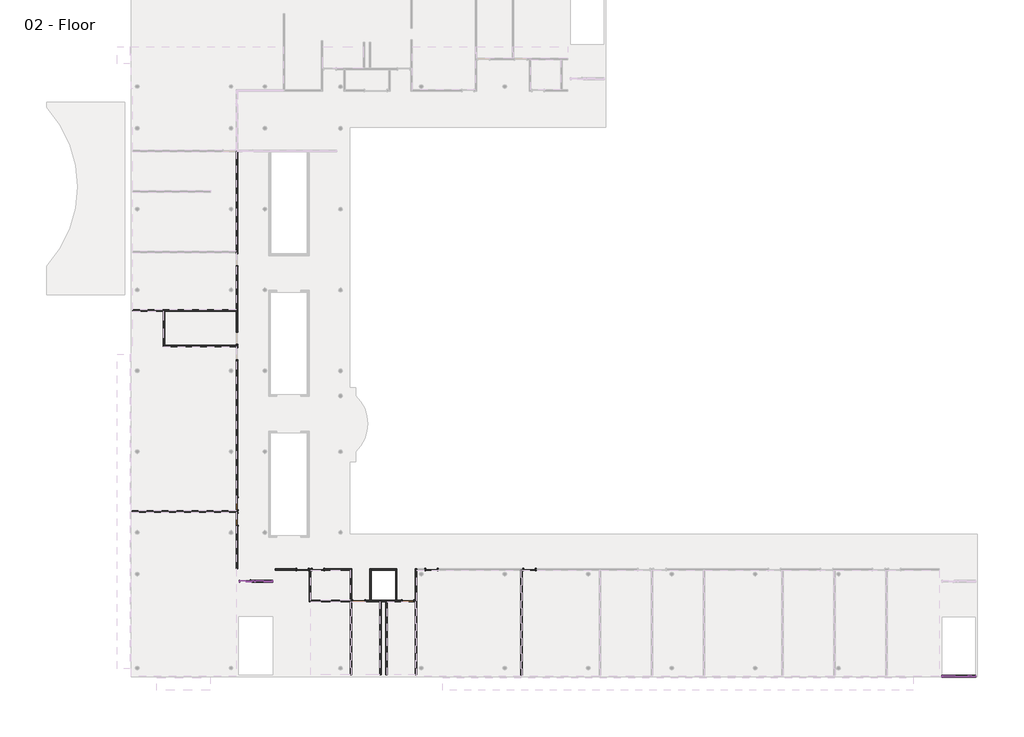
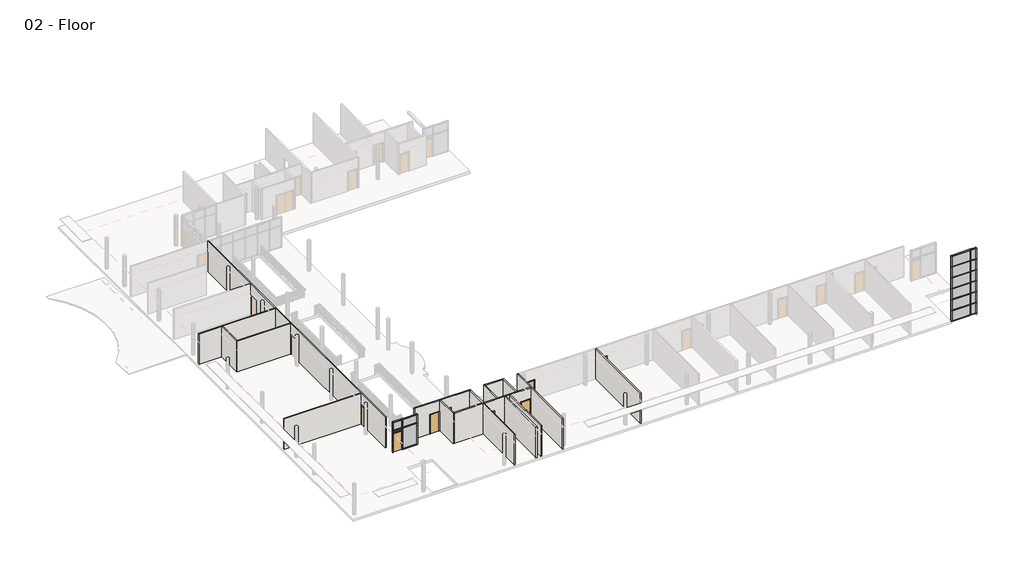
# One storey, part 1 of 5: 50 members, 16 plates, 16 walls, 9 doors.
"""IFC4 building model written with IfcOpenShell, lengths in millimetres."""

from ifc_helpers import new_model, si_unit, frame, origin, place, context, project, spatial, polyline, outline, extrude, faceted_brep, transform, mapped, element, save
from components import curtain_wall_sgl_glass_curtain_wall_sgl_glass_c2d4b377, door_305aa2a5, door_e5f9f3c4, member_2b49869a, member_75074519, member_18e22e2d, member_9193c932, member_4f18b2ac, member_7a85b04f, member_274b5bb4, member_3f1e2ae8, member_6186cc23, member_5d67b9fc, member_c327c56d, member_a50b3cda, member_410c6227, member_73c23c35, member_59c53a79, member_c46932f7, member_40e8ea34, member_f5b3432e, system_panel_glazed_f46199af, system_panel_glazed_a2373be0, system_panel_glazed_4b84483b, system_panel_glazed_9dcaf0c5, system_panel_glazed_652e8fc4, system_panel_glazed_8dc8626f, system_panel_glazed_8d3e4aee, system_panel_glazed_f4fcbcda

model = new_model("IFC4")

# Units and contexts
model_context = context("Model", 3, world=origin())
ifc_project = project(units=[si_unit("LENGTHUNIT", "METRE", prefix="MILLI")], contexts=[model_context])

# Site, building, storey
site = spatial("IfcSite", under=ifc_project)
building = spatial("IfcBuilding", under=site)
storey = spatial("IfcBuildingStorey", under=building, Name="02 - Floor", Elevation=3657.6)

# Doors
placement = place(None, origin())
curtain_wall_sgl_glass_curtain_wall_sgl_glass_shape = curtain_wall_sgl_glass_curtain_wall_sgl_glass_c2d4b377(model_context)
element("IfcDoor", 1, ObjectType="Curtain Wall Sgl Glass : Curtain Wall Sgl Glass", at=placement, inside=storey, context=model_context, shape_type="MappedRepresentation", body=[
    mapped(curtain_wall_sgl_glass_curtain_wall_sgl_glass_shape, transform((9097.2957476, 7356.4, 3657.6), x_axis=(-1.0, 0.0, 0.0), y_axis=(0.0, -1.0, 0.0), z_axis=(0.0, 0.0, 1.0))),
])
door_shape = door_305aa2a5(model_context)
element("IfcDoor", 2, ObjectType="Single-Flush : 36\" x 84\"", at=placement, inside=storey, context=model_context, shape_type="MappedRepresentation", body=[
    mapped(door_shape, transform((21743.3207476, 5832.4, 3657.6), x_axis=(1.0, 0.0, 0.0), y_axis=(0.0, 1.0, 0.0), z_axis=(0.0, 0.0, 1.0))),
])
element("IfcDoor", 3, ObjectType="Single-Flush : 36\" x 84\"", at=placement, inside=storey, context=model_context, shape_type="MappedRepresentation", body=[
    mapped(door_shape, transform((8427.3707476, 13401.6, 3657.6), x_axis=(0.0, -1.0, 0.0), y_axis=(1.0, 0.0, 0.0), z_axis=(0.0, 0.0, 1.0))),
])
element("IfcDoor", 4, ObjectType="Single-Flush : 36\" x 84\"", at=placement, inside=storey, context=model_context, shape_type="MappedRepresentation", body=[
    mapped(door_shape, transform((13513.7207476, 8277.15, 3657.6), x_axis=(1.0, 0.0, 0.0), y_axis=(0.0, 1.0, 0.0), z_axis=(0.0, 0.0, 1.0))),
])
door_2_shape = door_e5f9f3c4(model_context)
element("IfcDoor", 5, ObjectType="Single-Flush : 36\" x 84\"", at=placement, inside=storey, context=model_context, shape_type="MappedRepresentation", body=[
    mapped(door_2_shape, transform((17907.9207476, 5832.4, 3657.6), x_axis=(-1.0, 0.0, 0.0), y_axis=(0.0, -1.0, 0.0), z_axis=(0.0, 0.0, 1.0))),
])
element("IfcDoor", 6, ObjectType="Single-Flush : 36\" x 84\"", at=placement, inside=storey, context=model_context, shape_type="MappedRepresentation", body=[
    mapped(door_2_shape, transform((8427.3707476, 12182.4, 3657.6), x_axis=(0.0, 1.0, 0.0), y_axis=(-1.0, 0.0, 0.0), z_axis=(0.0, 0.0, 1.0))),
])
element("IfcDoor", 7, ObjectType="Single-Flush : 36\" x 84\"", at=placement, inside=storey, context=model_context, shape_type="MappedRepresentation", body=[
    mapped(door_2_shape, transform((14732.9207476, 8277.15, 3657.6), x_axis=(-1.0, 0.0, 0.0), y_axis=(0.0, -1.0, 0.0), z_axis=(0.0, 0.0, 1.0))),
])
element("IfcDoor", 8, ObjectType="Single-Flush : 36\" x 84\"", at=placement, inside=storey, context=model_context, shape_type="MappedRepresentation", body=[
    mapped(door_2_shape, transform((23572.1207476, 8277.15, 3657.6), x_axis=(-1.0, 0.0, 0.0), y_axis=(0.0, -1.0, 0.0), z_axis=(0.0, 0.0, 1.0))),
])
element("IfcDoor", 9, ObjectType="Single-Flush : 36\" x 84\"", at=placement, inside=storey, context=model_context, shape_type="MappedRepresentation", body=[
    mapped(door_2_shape, transform((31204.8207476, 8277.15, 3657.6), x_axis=(-1.0, 0.0, 0.0), y_axis=(0.0, -1.0, 0.0), z_axis=(0.0, 0.0, 1.0))),
])

# Members
member_shape = member_2b49869a(model_context)
element("IfcMember", 10, ObjectType="Rectangular Mullion : 2.5\" x 5\" rectangular", at=placement, inside=storey, context=model_context, shape_type="MappedRepresentation", body=[
    mapped(member_shape, transform((65380.5207476, -47.7, 9753.6), x_axis=(1.0, 0.0, 0.0), y_axis=(0.0, -1.0, 0.0), z_axis=(0.0, 0.0, -1.0))),
])
member_2_shape = member_75074519(model_context)
element("IfcMember", 11, ObjectType="Rectangular Mullion : 2.5\" x 5\" rectangular", at=placement, inside=storey, context=model_context, shape_type="MappedRepresentation", body=[
    mapped(member_2_shape, transform((63348.5207476, -47.7, 10972.8), x_axis=(-1.0, 0.0, 0.0), y_axis=(0.0, -1.0, 0.0), z_axis=(0.0, 0.0, 1.0))),
])
element("IfcMember", 12, ObjectType="Rectangular Mullion : 2.5\" x 5\" rectangular", at=placement, inside=storey, context=model_context, shape_type="MappedRepresentation", body=[
    mapped(member_2_shape, transform((66002.8207476, -47.7, 9753.6), x_axis=(1.0, 0.0, 0.0), y_axis=(0.0, -1.0, 0.0), z_axis=(0.0, 0.0, -1.0))),
])
member_3_shape = member_18e22e2d(model_context)
element("IfcMember", 13, ObjectType="Rectangular Mullion : 2.5\" x 5\" rectangular", at=placement, inside=storey, context=model_context, shape_type="MappedRepresentation", body=[
    mapped(member_3_shape, transform((9586.2457476, 7356.4, 6096.0), x_axis=(-1.0, 0.0, 0.0), y_axis=(0.0, 1.0, 0.0), z_axis=(0.0, 0.0, -1.0))),
])
member_4_shape = member_9193c932(model_context)
element("IfcMember", 14, ObjectType="Rectangular Mullion : 2.5\" x 5\" rectangular", at=placement, inside=storey, context=model_context, shape_type="MappedRepresentation", body=[
    mapped(member_4_shape, transform((11194.3832476, 7356.4, 7061.2), x_axis=(1.0, 0.0, 0.0), y_axis=(0.0, 1.0, 0.0), z_axis=(0.0, 0.0, 1.0))),
])
element("IfcMember", 15, ObjectType="Rectangular Mullion : 2.5\" x 5\" rectangular", at=placement, inside=storey, context=model_context, shape_type="MappedRepresentation", body=[
    mapped(member_4_shape, transform((8576.5957476, 7356.4, 6096.0), x_axis=(-1.0, 0.0, 0.0), y_axis=(0.0, 1.0, 0.0), z_axis=(0.0, 0.0, -1.0))),
])
member_5_shape = member_4f18b2ac(model_context)
element("IfcMember", 16, ObjectType="Rectangular Mullion : 2.5\" x 5\" rectangular", at=placement, inside=storey, context=model_context, shape_type="MappedRepresentation", body=[
    mapped(member_5_shape, transform((63412.0207476, -47.7, 3657.6), x_axis=(0.0, 0.0, -1.0), y_axis=(0.0, -1.0, 0.0), z_axis=(-1.0, 0.0, 0.0))),
])
element("IfcMember", 17, ObjectType="Rectangular Mullion : 2.5\" x 5\" rectangular", at=placement, inside=storey, context=model_context, shape_type="MappedRepresentation", body=[
    mapped(member_5_shape, transform((65348.7707476, -47.7, 10972.8), x_axis=(0.0, 0.0, 1.0), y_axis=(0.0, -1.0, 0.0), z_axis=(1.0, 0.0, 0.0))),
])
member_6_shape = member_7a85b04f(model_context)
element("IfcMember", 18, ObjectType="Rectangular Mullion : 2.5\" x 5\" rectangular", at=placement, inside=storey, context=model_context, shape_type="MappedRepresentation", body=[
    mapped(member_6_shape, transform((65348.7707476, -47.7, 4876.8), x_axis=(0.0, 0.0, 1.0), y_axis=(0.0, -1.0, 0.0), z_axis=(1.0, 0.0, 0.0))),
])
element("IfcMember", 19, ObjectType="Rectangular Mullion : 2.5\" x 5\" rectangular", at=placement, inside=storey, context=model_context, shape_type="MappedRepresentation", body=[
    mapped(member_6_shape, transform((65348.7707476, -47.7, 6096.0), x_axis=(0.0, 0.0, 1.0), y_axis=(0.0, -1.0, 0.0), z_axis=(1.0, 0.0, 0.0))),
])
element("IfcMember", 20, ObjectType="Rectangular Mullion : 2.5\" x 5\" rectangular", at=placement, inside=storey, context=model_context, shape_type="MappedRepresentation", body=[
    mapped(member_6_shape, transform((65348.7707476, -47.7, 7315.2), x_axis=(0.0, 0.0, 1.0), y_axis=(0.0, -1.0, 0.0), z_axis=(1.0, 0.0, 0.0))),
])
element("IfcMember", 21, ObjectType="Rectangular Mullion : 2.5\" x 5\" rectangular", at=placement, inside=storey, context=model_context, shape_type="MappedRepresentation", body=[
    mapped(member_6_shape, transform((65348.7707476, -47.7, 8534.4), x_axis=(0.0, 0.0, 1.0), y_axis=(0.0, -1.0, 0.0), z_axis=(1.0, 0.0, 0.0))),
])
element("IfcMember", 22, ObjectType="Rectangular Mullion : 2.5\" x 5\" rectangular", at=placement, inside=storey, context=model_context, shape_type="MappedRepresentation", body=[
    mapped(member_6_shape, transform((65348.7707476, -47.7, 9753.6), x_axis=(0.0, 0.0, 1.0), y_axis=(0.0, -1.0, 0.0), z_axis=(1.0, 0.0, 0.0))),
])
element("IfcMember", 23, ObjectType="Rectangular Mullion : 2.5\" x 5\" rectangular", at=placement, inside=storey, context=model_context, shape_type="MappedRepresentation", body=[
    mapped(member_shape, transform((65380.5207476, -47.7, 3657.6), x_axis=(1.0, 0.0, 0.0), y_axis=(0.0, -1.0, 0.0), z_axis=(0.0, 0.0, -1.0))),
])
element("IfcMember", 24, ObjectType="Rectangular Mullion : 2.5\" x 5\" rectangular", at=placement, inside=storey, context=model_context, shape_type="MappedRepresentation", body=[
    mapped(member_shape, transform((65380.5207476, -47.7, 4876.8), x_axis=(1.0, 0.0, 0.0), y_axis=(0.0, -1.0, 0.0), z_axis=(0.0, 0.0, -1.0))),
])
element("IfcMember", 25, ObjectType="Rectangular Mullion : 2.5\" x 5\" rectangular", at=placement, inside=storey, context=model_context, shape_type="MappedRepresentation", body=[
    mapped(member_shape, transform((65380.5207476, -47.7, 6096.0), x_axis=(1.0, 0.0, 0.0), y_axis=(0.0, -1.0, 0.0), z_axis=(0.0, 0.0, -1.0))),
])
element("IfcMember", 26, ObjectType="Rectangular Mullion : 2.5\" x 5\" rectangular", at=placement, inside=storey, context=model_context, shape_type="MappedRepresentation", body=[
    mapped(member_shape, transform((65380.5207476, -47.7, 7315.2), x_axis=(1.0, 0.0, 0.0), y_axis=(0.0, -1.0, 0.0), z_axis=(0.0, 0.0, -1.0))),
])
element("IfcMember", 27, ObjectType="Rectangular Mullion : 2.5\" x 5\" rectangular", at=placement, inside=storey, context=model_context, shape_type="MappedRepresentation", body=[
    mapped(member_shape, transform((65380.5207476, -47.7, 8534.4), x_axis=(1.0, 0.0, 0.0), y_axis=(0.0, -1.0, 0.0), z_axis=(0.0, 0.0, -1.0))),
])
member_7_shape = member_274b5bb4(model_context)
element("IfcMember", 28, ObjectType="Rectangular Mullion : 2.5\" x 5\" rectangular", at=placement, inside=storey, context=model_context, shape_type="MappedRepresentation", body=[
    mapped(member_7_shape, transform((65939.3207476, -47.7, 10972.8), x_axis=(0.0, 0.0, 1.0), y_axis=(0.0, -1.0, 0.0), z_axis=(1.0, 0.0, 0.0))),
])
element("IfcMember", 29, ObjectType="Rectangular Mullion : 2.5\" x 5\" rectangular", at=placement, inside=storey, context=model_context, shape_type="MappedRepresentation", body=[
    mapped(member_7_shape, transform((65412.2707476, -47.7, 3657.6), x_axis=(0.0, 0.0, -1.0), y_axis=(0.0, -1.0, 0.0), z_axis=(-1.0, 0.0, 0.0))),
])
member_8_shape = member_3f1e2ae8(model_context)
element("IfcMember", 30, ObjectType="Rectangular Mullion : 2.5\" x 5\" rectangular", at=placement, inside=storey, context=model_context, shape_type="MappedRepresentation", body=[
    mapped(member_8_shape, transform((65939.3207476, -47.7, 4876.8), x_axis=(0.0, 0.0, 1.0), y_axis=(0.0, -1.0, 0.0), z_axis=(1.0, 0.0, 0.0))),
])
element("IfcMember", 31, ObjectType="Rectangular Mullion : 2.5\" x 5\" rectangular", at=placement, inside=storey, context=model_context, shape_type="MappedRepresentation", body=[
    mapped(member_8_shape, transform((65939.3207476, -47.7, 6096.0), x_axis=(0.0, 0.0, 1.0), y_axis=(0.0, -1.0, 0.0), z_axis=(1.0, 0.0, 0.0))),
])
element("IfcMember", 32, ObjectType="Rectangular Mullion : 2.5\" x 5\" rectangular", at=placement, inside=storey, context=model_context, shape_type="MappedRepresentation", body=[
    mapped(member_8_shape, transform((65939.3207476, -47.7, 7315.2), x_axis=(0.0, 0.0, 1.0), y_axis=(0.0, -1.0, 0.0), z_axis=(1.0, 0.0, 0.0))),
])
element("IfcMember", 33, ObjectType="Rectangular Mullion : 2.5\" x 5\" rectangular", at=placement, inside=storey, context=model_context, shape_type="MappedRepresentation", body=[
    mapped(member_8_shape, transform((65939.3207476, -47.7, 8534.4), x_axis=(0.0, 0.0, 1.0), y_axis=(0.0, -1.0, 0.0), z_axis=(1.0, 0.0, 0.0))),
])
element("IfcMember", 34, ObjectType="Rectangular Mullion : 2.5\" x 5\" rectangular", at=placement, inside=storey, context=model_context, shape_type="MappedRepresentation", body=[
    mapped(member_8_shape, transform((65939.3207476, -47.7, 9753.6), x_axis=(0.0, 0.0, 1.0), y_axis=(0.0, -1.0, 0.0), z_axis=(1.0, 0.0, 0.0))),
])
element("IfcMember", 35, ObjectType="Rectangular Mullion : 2.5\" x 5\" rectangular", at=placement, inside=storey, context=model_context, shape_type="MappedRepresentation", body=[
    mapped(member_2_shape, transform((66002.8207476, -47.7, 3657.6), x_axis=(1.0, 0.0, 0.0), y_axis=(0.0, -1.0, 0.0), z_axis=(0.0, 0.0, -1.0))),
])
element("IfcMember", 36, ObjectType="Rectangular Mullion : 2.5\" x 5\" rectangular", at=placement, inside=storey, context=model_context, shape_type="MappedRepresentation", body=[
    mapped(member_2_shape, transform((66002.8207476, -47.7, 4876.8), x_axis=(1.0, 0.0, 0.0), y_axis=(0.0, -1.0, 0.0), z_axis=(0.0, 0.0, -1.0))),
])
element("IfcMember", 37, ObjectType="Rectangular Mullion : 2.5\" x 5\" rectangular", at=placement, inside=storey, context=model_context, shape_type="MappedRepresentation", body=[
    mapped(member_2_shape, transform((66002.8207476, -47.7, 6096.0), x_axis=(1.0, 0.0, 0.0), y_axis=(0.0, -1.0, 0.0), z_axis=(0.0, 0.0, -1.0))),
])
element("IfcMember", 38, ObjectType="Rectangular Mullion : 2.5\" x 5\" rectangular", at=placement, inside=storey, context=model_context, shape_type="MappedRepresentation", body=[
    mapped(member_2_shape, transform((66002.8207476, -47.7, 7315.2), x_axis=(1.0, 0.0, 0.0), y_axis=(0.0, -1.0, 0.0), z_axis=(0.0, 0.0, -1.0))),
])
element("IfcMember", 39, ObjectType="Rectangular Mullion : 2.5\" x 5\" rectangular", at=placement, inside=storey, context=model_context, shape_type="MappedRepresentation", body=[
    mapped(member_2_shape, transform((66002.8207476, -47.7, 8534.4), x_axis=(1.0, 0.0, 0.0), y_axis=(0.0, -1.0, 0.0), z_axis=(0.0, 0.0, -1.0))),
])
element("IfcMember", 40, ObjectType="Rectangular Mullion : 2.5\" x 5\" rectangular", at=placement, inside=storey, context=model_context, shape_type="MappedRepresentation", body=[
    mapped(member_2_shape, transform((63348.5207476, -47.7, 4876.8), x_axis=(-1.0, 0.0, 0.0), y_axis=(0.0, -1.0, 0.0), z_axis=(0.0, 0.0, 1.0))),
])
element("IfcMember", 41, ObjectType="Rectangular Mullion : 2.5\" x 5\" rectangular", at=placement, inside=storey, context=model_context, shape_type="MappedRepresentation", body=[
    mapped(member_2_shape, transform((63348.5207476, -47.7, 6096.0), x_axis=(-1.0, 0.0, 0.0), y_axis=(0.0, -1.0, 0.0), z_axis=(0.0, 0.0, 1.0))),
])
element("IfcMember", 42, ObjectType="Rectangular Mullion : 2.5\" x 5\" rectangular", at=placement, inside=storey, context=model_context, shape_type="MappedRepresentation", body=[
    mapped(member_2_shape, transform((63348.5207476, -47.7, 7315.2), x_axis=(-1.0, 0.0, 0.0), y_axis=(0.0, -1.0, 0.0), z_axis=(0.0, 0.0, 1.0))),
])
element("IfcMember", 43, ObjectType="Rectangular Mullion : 2.5\" x 5\" rectangular", at=placement, inside=storey, context=model_context, shape_type="MappedRepresentation", body=[
    mapped(member_2_shape, transform((63348.5207476, -47.7, 8534.4), x_axis=(-1.0, 0.0, 0.0), y_axis=(0.0, -1.0, 0.0), z_axis=(0.0, 0.0, 1.0))),
])
element("IfcMember", 44, ObjectType="Rectangular Mullion : 2.5\" x 5\" rectangular", at=placement, inside=storey, context=model_context, shape_type="MappedRepresentation", body=[
    mapped(member_2_shape, transform((63348.5207476, -47.7, 9753.6), x_axis=(-1.0, 0.0, 0.0), y_axis=(0.0, -1.0, 0.0), z_axis=(0.0, 0.0, 1.0))),
])
member_9_shape = member_6186cc23(model_context)
element("IfcMember", 45, ObjectType="Rectangular Mullion : 2.5\" x 5\" rectangular", at=placement, inside=storey, context=model_context, shape_type="MappedRepresentation", body=[
    mapped(member_9_shape, transform((9586.2457476, 7356.4, 3657.6), x_axis=(-1.0, 0.0, 0.0), y_axis=(0.0, 1.0, 0.0), z_axis=(0.0, 0.0, -1.0))),
])
member_10_shape = member_5d67b9fc(model_context)
element("IfcMember", 46, ObjectType="Rectangular Mullion : 2.5\" x 5\" rectangular", at=placement, inside=storey, context=model_context, shape_type="MappedRepresentation", body=[
    mapped(member_10_shape, transform((9586.2457476, 7356.4, 5822.95), x_axis=(-1.0, 0.0, 0.0), y_axis=(0.0, 1.0, 0.0), z_axis=(0.0, 0.0, -1.0))),
])
member_11_shape = member_c327c56d(model_context)
element("IfcMember", 47, ObjectType="Rectangular Mullion : 2.5\" x 5\" rectangular", at=placement, inside=storey, context=model_context, shape_type="MappedRepresentation", body=[
    mapped(member_11_shape, transform((11194.3832476, 7356.4, 6096.0), x_axis=(1.0, 0.0, 0.0), y_axis=(0.0, 1.0, 0.0), z_axis=(0.0, 0.0, 1.0))),
])
member_12_shape = member_a50b3cda(model_context)
element("IfcMember", 48, ObjectType="Rectangular Mullion : 2.5\" x 5\" rectangular", at=placement, inside=storey, context=model_context, shape_type="MappedRepresentation", body=[
    mapped(member_12_shape, transform((11194.3832476, 7356.4, 5822.95), x_axis=(1.0, 0.0, 0.0), y_axis=(0.0, 1.0, 0.0), z_axis=(0.0, 0.0, 1.0))),
])
member_13_shape = member_410c6227(model_context)
element("IfcMember", 49, ObjectType="Rectangular Mullion : 2.5\" x 5\" rectangular", at=placement, inside=storey, context=model_context, shape_type="MappedRepresentation", body=[
    mapped(member_13_shape, transform((8640.0957476, 7356.4, 6096.0), x_axis=(0.0, 0.0, 1.0), y_axis=(0.0, 1.0, 0.0), z_axis=(-1.0, 0.0, 0.0))),
])
element("IfcMember", 50, ObjectType="Rectangular Mullion : 2.5\" x 5\" rectangular", at=placement, inside=storey, context=model_context, shape_type="MappedRepresentation", body=[
    mapped(member_13_shape, transform((8640.0957476, 7356.4, 5822.95), x_axis=(0.0, 0.0, 1.0), y_axis=(0.0, 1.0, 0.0), z_axis=(-1.0, 0.0, 0.0))),
])
member_14_shape = member_73c23c35(model_context)
element("IfcMember", 51, ObjectType="Rectangular Mullion : 2.5\" x 5\" rectangular", at=placement, inside=storey, context=model_context, shape_type="MappedRepresentation", body=[
    mapped(member_14_shape, transform((8640.0957476, 7356.4, 7061.2), x_axis=(0.0, 0.0, 1.0), y_axis=(0.0, 1.0, 0.0), z_axis=(-1.0, 0.0, 0.0))),
])
element("IfcMember", 52, ObjectType="Rectangular Mullion : 2.5\" x 5\" rectangular", at=placement, inside=storey, context=model_context, shape_type="MappedRepresentation", body=[
    mapped(member_12_shape, transform((8576.5957476, 7356.4, 3657.6), x_axis=(-1.0, 0.0, 0.0), y_axis=(0.0, 1.0, 0.0), z_axis=(0.0, 0.0, -1.0))),
])
element("IfcMember", 53, ObjectType="Rectangular Mullion : 2.5\" x 5\" rectangular", at=placement, inside=storey, context=model_context, shape_type="MappedRepresentation", body=[
    mapped(member_11_shape, transform((8576.5957476, 7356.4, 5822.95), x_axis=(-1.0, 0.0, 0.0), y_axis=(0.0, 1.0, 0.0), z_axis=(0.0, 0.0, -1.0))),
])
member_15_shape = member_59c53a79(model_context)
element("IfcMember", 54, ObjectType="Rectangular Mullion : 2.5\" x 5\" rectangular", at=placement, inside=storey, context=model_context, shape_type="MappedRepresentation", body=[
    mapped(member_15_shape, transform((11130.8832476, 7356.4, 3657.6), x_axis=(0.0, 0.0, -1.0), y_axis=(0.0, 1.0, 0.0), z_axis=(1.0, 0.0, 0.0))),
])
member_16_shape = member_c46932f7(model_context)
element("IfcMember", 55, ObjectType="Rectangular Mullion : 2.5\" x 5\" rectangular", at=placement, inside=storey, context=model_context, shape_type="MappedRepresentation", body=[
    mapped(member_16_shape, transform((9885.4894976, 7356.4, 6096.0), x_axis=(0.0, 0.0, 1.0), y_axis=(0.0, 1.0, 0.0), z_axis=(-1.0, 0.0, 0.0))),
])
element("IfcMember", 56, ObjectType="Rectangular Mullion : 2.5\" x 5\" rectangular", at=placement, inside=storey, context=model_context, shape_type="MappedRepresentation", body=[
    mapped(member_15_shape, transform((9885.4894976, 7356.4, 7061.2), x_axis=(0.0, 0.0, 1.0), y_axis=(0.0, 1.0, 0.0), z_axis=(-1.0, 0.0, 0.0))),
])
member_17_shape = member_40e8ea34(model_context)
element("IfcMember", 57, ObjectType="Rectangular Mullion : 2.5\" x 5\" rectangular", at=placement, inside=storey, context=model_context, shape_type="MappedRepresentation", body=[
    mapped(member_17_shape, transform((9617.9957476, 7356.4, 6096.0), x_axis=(0.0, 0.0, 1.0), y_axis=(0.0, 1.0, 0.0), z_axis=(-1.0, 0.0, 0.0))),
])
member_18_shape = member_f5b3432e(model_context)
element("IfcMember", 58, ObjectType="Rectangular Mullion : 2.5\" x 5\" rectangular", at=placement, inside=storey, context=model_context, shape_type="MappedRepresentation", body=[
    mapped(member_18_shape, transform((9617.9957476, 7356.4, 7061.2), x_axis=(0.0, 0.0, 1.0), y_axis=(0.0, 1.0, 0.0), z_axis=(-1.0, 0.0, 0.0))),
])
element("IfcMember", 59, ObjectType="Rectangular Mullion : 2.5\" x 5\" rectangular", at=placement, inside=storey, context=model_context, shape_type="MappedRepresentation", body=[
    mapped(member_18_shape, transform((9885.4894976, 7356.4, 3657.6), x_axis=(0.0, 0.0, -1.0), y_axis=(0.0, 1.0, 0.0), z_axis=(1.0, 0.0, 0.0))),
])

# Plates
system_panel_glazed_shape = system_panel_glazed_f46199af(model_context)
element("IfcPlate", 60, ObjectType="System Panel : Glazed", at=placement, inside=storey, context=model_context, shape_type="MappedRepresentation", body=[
    mapped(system_panel_glazed_shape, transform((64380.3957476, -47.7, 3721.1), x_axis=(1.0, 0.0, 0.0), y_axis=(0.0, 1.0, 0.0), z_axis=(0.0, 0.0, 1.0))),
])
element("IfcPlate", 61, ObjectType="System Panel : Glazed", at=placement, inside=storey, context=model_context, shape_type="MappedRepresentation", body=[
    mapped(system_panel_glazed_shape, transform((64380.3957476, -47.7, 9785.35), x_axis=(1.0, 0.0, 0.0), y_axis=(0.0, 1.0, 0.0), z_axis=(0.0, 0.0, 1.0))),
])
system_panel_glazed_2_shape = system_panel_glazed_a2373be0(model_context)
element("IfcPlate", 62, ObjectType="System Panel : Glazed", at=placement, inside=storey, context=model_context, shape_type="MappedRepresentation", body=[
    mapped(system_panel_glazed_2_shape, transform((64380.3957476, -47.7, 4908.55), x_axis=(1.0, 0.0, 0.0), y_axis=(0.0, 1.0, 0.0), z_axis=(0.0, 0.0, 1.0))),
])
element("IfcPlate", 63, ObjectType="System Panel : Glazed", at=placement, inside=storey, context=model_context, shape_type="MappedRepresentation", body=[
    mapped(system_panel_glazed_2_shape, transform((64380.3957476, -47.7, 6127.75), x_axis=(1.0, 0.0, 0.0), y_axis=(0.0, 1.0, 0.0), z_axis=(0.0, 0.0, 1.0))),
])
element("IfcPlate", 64, ObjectType="System Panel : Glazed", at=placement, inside=storey, context=model_context, shape_type="MappedRepresentation", body=[
    mapped(system_panel_glazed_2_shape, transform((64380.3957476, -47.7, 7346.95), x_axis=(1.0, 0.0, 0.0), y_axis=(0.0, 1.0, 0.0), z_axis=(0.0, 0.0, 1.0))),
])
element("IfcPlate", 65, ObjectType="System Panel : Glazed", at=placement, inside=storey, context=model_context, shape_type="MappedRepresentation", body=[
    mapped(system_panel_glazed_2_shape, transform((64380.3957476, -47.7, 8566.15), x_axis=(1.0, 0.0, 0.0), y_axis=(0.0, 1.0, 0.0), z_axis=(0.0, 0.0, 1.0))),
])
system_panel_glazed_3_shape = system_panel_glazed_4b84483b(model_context)
element("IfcPlate", 66, ObjectType="System Panel : Glazed", at=placement, inside=storey, context=model_context, shape_type="MappedRepresentation", body=[
    mapped(system_panel_glazed_3_shape, transform((65675.7957476, -47.7, 3721.1), x_axis=(1.0, 0.0, 0.0), y_axis=(0.0, 1.0, 0.0), z_axis=(0.0, 0.0, 1.0))),
])
element("IfcPlate", 67, ObjectType="System Panel : Glazed", at=placement, inside=storey, context=model_context, shape_type="MappedRepresentation", body=[
    mapped(system_panel_glazed_3_shape, transform((65675.7957476, -47.7, 9785.35), x_axis=(1.0, 0.0, 0.0), y_axis=(0.0, 1.0, 0.0), z_axis=(0.0, 0.0, 1.0))),
])
system_panel_glazed_4_shape = system_panel_glazed_9dcaf0c5(model_context)
element("IfcPlate", 68, ObjectType="System Panel : Glazed", at=placement, inside=storey, context=model_context, shape_type="MappedRepresentation", body=[
    mapped(system_panel_glazed_4_shape, transform((65675.7957476, -47.7, 4908.55), x_axis=(1.0, 0.0, 0.0), y_axis=(0.0, 1.0, 0.0), z_axis=(0.0, 0.0, 1.0))),
])
element("IfcPlate", 69, ObjectType="System Panel : Glazed", at=placement, inside=storey, context=model_context, shape_type="MappedRepresentation", body=[
    mapped(system_panel_glazed_4_shape, transform((65675.7957476, -47.7, 6127.75), x_axis=(1.0, 0.0, 0.0), y_axis=(0.0, 1.0, 0.0), z_axis=(0.0, 0.0, 1.0))),
])
element("IfcPlate", 70, ObjectType="System Panel : Glazed", at=placement, inside=storey, context=model_context, shape_type="MappedRepresentation", body=[
    mapped(system_panel_glazed_4_shape, transform((65675.7957476, -47.7, 7346.95), x_axis=(1.0, 0.0, 0.0), y_axis=(0.0, 1.0, 0.0), z_axis=(0.0, 0.0, 1.0))),
])
element("IfcPlate", 71, ObjectType="System Panel : Glazed", at=placement, inside=storey, context=model_context, shape_type="MappedRepresentation", body=[
    mapped(system_panel_glazed_4_shape, transform((65675.7957476, -47.7, 8566.15), x_axis=(1.0, 0.0, 0.0), y_axis=(0.0, 1.0, 0.0), z_axis=(0.0, 0.0, 1.0))),
])
system_panel_glazed_5_shape = system_panel_glazed_652e8fc4(model_context)
element("IfcPlate", 72, ObjectType="System Panel : Glazed", at=placement, inside=storey, context=model_context, shape_type="MappedRepresentation", body=[
    mapped(system_panel_glazed_5_shape, transform((9097.2957476, 7356.4, 6127.75), x_axis=(-1.0, 0.0, 0.0), y_axis=(0.0, -1.0, 0.0), z_axis=(0.0, 0.0, 1.0))),
])
system_panel_glazed_6_shape = system_panel_glazed_8dc8626f(model_context)
element("IfcPlate", 73, ObjectType="System Panel : Glazed", at=placement, inside=storey, context=model_context, shape_type="MappedRepresentation", body=[
    mapped(system_panel_glazed_6_shape, transform((9097.2957476, 7356.4, 5854.7), x_axis=(-1.0, 0.0, 0.0), y_axis=(0.0, -1.0, 0.0), z_axis=(0.0, 0.0, 1.0))),
])
system_panel_glazed_7_shape = system_panel_glazed_8d3e4aee(model_context)
element("IfcPlate", 74, ObjectType="System Panel : Glazed", at=placement, inside=storey, context=model_context, shape_type="MappedRepresentation", body=[
    mapped(system_panel_glazed_7_shape, transform((10374.4394976, 7356.4, 3721.1), x_axis=(-1.0, 0.0, 0.0), y_axis=(0.0, -1.0, 0.0), z_axis=(0.0, 0.0, 1.0))),
])
system_panel_glazed_8_shape = system_panel_glazed_f4fcbcda(model_context)
element("IfcPlate", 75, ObjectType="System Panel : Glazed", at=placement, inside=storey, context=model_context, shape_type="MappedRepresentation", body=[
    mapped(system_panel_glazed_8_shape, transform((10374.4394976, 7356.4, 6127.75), x_axis=(-1.0, 0.0, 0.0), y_axis=(0.0, -1.0, 0.0), z_axis=(0.0, 0.0, 1.0))),
])

# Walls
element("IfcWall", 76, ObjectType="Typ. Partition Wall", at=placement, inside=storey, context=model_context, shape_type="Brep", body=[
    faceted_brep([(13970.9207476, 8220.0, 5791.2), (13970.9207476, 8220.0, 3657.6), (14066.1707476, 8220.0, 3657.6), (14180.4707476, 8220.0, 3657.6), (14275.7207476, 8220.0, 3657.6), (14275.7207476, 8220.0, 5791.2), (15190.1207476, 8220.0, 5791.2), (15190.1207476, 8220.0, 3657.6), (17241.1707476, 8220.0, 3657.6), (17355.4707476, 8220.0, 3657.6), (17355.4707476, 8220.0, 7061.2), (17241.1707476, 8220.0, 7061.2), (14180.4707476, 8220.0, 7061.2), (14066.1707476, 8220.0, 7061.2), (11413.4582476, 8220.0, 7061.2), (11413.4582476, 8220.0, 3657.6), (13056.5207476, 8220.0, 3657.6), (13056.5207476, 8220.0, 5791.2), (14275.7207476, 8334.3, 3657.6), (13970.9207476, 8334.3, 3657.6), (13970.9207476, 8334.3, 5791.2), (13056.5207476, 8334.3, 5791.2), (13056.5207476, 8334.3, 3657.6), (11413.4582476, 8334.3, 3657.6), (11413.4582476, 8334.3, 7061.2), (17355.4707476, 8334.3, 7061.2), (17355.4707476, 8334.3, 3657.6), (15190.1207476, 8334.3, 3657.6), (15190.1207476, 8334.3, 5791.2), (14275.7207476, 8334.3, 5791.2)], [[[0, 1, 2, 3, 4, 5, 6, 7, 8, 9, 10, 11, 12, 13, 14, 15, 16, 17]], [[18, 19, 20, 21, 22, 23, 24, 25, 26, 27, 28, 29]], [[4, 3, 2, 1, 19, 18]], [[27, 26, 9, 8, 7]], [[16, 15, 23, 22]], [[14, 13, 12, 11, 10, 25, 24]], [[15, 14, 24, 23]], [[10, 9, 26, 25]], [[5, 4, 18, 29]], [[6, 5, 29, 28]], [[7, 6, 28, 27]], [[20, 19, 1, 0]], [[21, 20, 0, 17]], [[22, 21, 17, 16]]]),
])
element("IfcWall", 77, ObjectType="Typ. Partition Wall", at=placement, inside=storey, context=model_context, shape_type="Brep", body=[
    faceted_brep([(2661.5707476, 25638.05, 3657.6), (8370.2207476, 25638.05, 3657.6), (8370.2207476, 25638.05, 7061.2), (2661.5707476, 25638.05, 7061.2), (2661.5707476, 25752.35, 3657.6), (2661.5707476, 25752.35, 7061.2), (2775.8707476, 25752.35, 7061.2), (8370.2207476, 25752.35, 7061.2), (8370.2207476, 25752.35, 3657.6), (2775.8707476, 25752.35, 3657.6)], [[[0, 1, 2, 3]], [[4, 5, 6, 7, 8, 9]], [[1, 0, 4, 9, 8]], [[0, 3, 5, 4]], [[2, 1, 8, 7]], [[3, 2, 7, 6, 5]]]),
])
element("IfcWall", 78, ObjectType="Typ. Partition Wall", at=placement, inside=storey, context=model_context, shape_type="SweptSolid", body=[
    extrude(outline(polyline([(30652.3707476, 8220.0), (30652.3707476, 15.8), (30538.0707476, 15.8), (30538.0707476, 8220.0), (30652.3707476, 8220.0)])), frame((0.0, 0.0, 3657.6), z_axis=(0.0, 0.0, 1.0), x_axis=(1.0, 0.0, 0.0)), (0.0, 0.0, 1.0), 3403.6),
])
element("IfcWall", 79, ObjectType="Typ. Partition Wall", at=placement, inside=storey, context=model_context, shape_type="SweptSolid", body=[
    extrude(outline(polyline([(8370.2207476, 12734.85), (242.2207476, 12734.85), (242.2207476, 12849.15), (8370.2207476, 12849.15), (8370.2207476, 12734.85)])), frame((0.0, 0.0, 3657.6), z_axis=(0.0, 0.0, 1.0), x_axis=(1.0, 0.0, 0.0)), (0.0, 0.0, 1.0), 3403.6),
])
element("IfcWall", 80, ObjectType="Typ. Partition Wall", at=placement, inside=storey, context=model_context, shape_type="Brep", body=[
    faceted_brep([(280.3207476, 28406.65, 3657.6), (2661.5707476, 28406.65, 3657.6), (2775.8707476, 28406.65, 3657.6), (8370.2207476, 28406.65, 3657.6), (8370.2207476, 28406.65, 7061.2), (2775.8707476, 28406.65, 7061.2), (2661.5707476, 28406.65, 7061.2), (280.3207476, 28406.65, 7061.2), (280.3207476, 28520.95, 3657.6), (280.3207476, 28520.95, 7061.2), (8370.2207476, 28520.95, 7061.2), (8370.2207476, 28520.95, 3657.6)], [[[0, 1, 2, 3, 4, 5, 6, 7]], [[8, 9, 10, 11]], [[3, 2, 1, 0, 8, 11]], [[4, 3, 11, 10]], [[0, 7, 9, 8]], [[7, 6, 5, 4, 10, 9]]]),
])
element("IfcWall", 81, ObjectType="Typ. Partition Wall", at=placement, inside=storey, context=model_context, shape_type="Brep", body=[
    faceted_brep([(14180.4707476, 5775.25, 3657.6), (14180.4707476, 5889.55, 3657.6), (14180.4707476, 8220.0, 3657.6), (14180.4707476, 8220.0, 7061.2), (14180.4707476, 5889.55, 7061.2), (14180.4707476, 5775.25, 7061.2), (14066.1707476, 5775.25, 3657.6), (14066.1707476, 5775.25, 7061.2), (14066.1707476, 8220.0, 7061.2), (14066.1707476, 8220.0, 3657.6)], [[[0, 1, 2, 3, 4, 5]], [[6, 7, 8, 9]], [[2, 1, 0, 6, 9]], [[0, 5, 7, 6]], [[3, 2, 9, 8]], [[5, 4, 3, 8, 7]]]),
])
element("IfcWall", 82, ObjectType="Typ. Partition Wall", at=placement, inside=storey, context=model_context, shape_type="Brep", body=[
    faceted_brep([(17355.4707476, 53.9, 3657.6), (17355.4707476, 5775.25, 3657.6), (17355.4707476, 5889.55, 3657.6), (17355.4707476, 8220.0, 3657.6), (17355.4707476, 8220.0, 7061.2), (17355.4707476, 5889.55, 7061.2), (17355.4707476, 5775.25, 7061.2), (17355.4707476, 53.9, 7061.2), (17241.1707476, 53.9, 3657.6), (17241.1707476, 53.9, 7061.2), (17241.1707476, 5775.25, 7061.2), (17241.1707476, 5889.55, 7061.2), (17241.1707476, 8220.0, 7061.2), (17241.1707476, 8220.0, 3657.6), (17241.1707476, 5889.55, 3657.6), (17241.1707476, 5775.25, 3657.6)], [[[0, 1, 2, 3, 4, 5, 6, 7]], [[8, 9, 10, 11, 12, 13, 14, 15]], [[3, 2, 1, 0, 8, 15, 14, 13]], [[0, 7, 9, 8]], [[4, 3, 13, 12]], [[7, 6, 5, 4, 12, 11, 10, 9]]]),
])
element("IfcWall", 83, ObjectType="Typ. Partition Wall", at=placement, inside=storey, context=model_context, shape_type="Brep", body=[
    faceted_brep([(22308.4707476, 5775.25, 3657.6), (22308.4707476, 5775.25, 7061.2), (20124.0707476, 5775.25, 7061.2), (20009.7707476, 5775.25, 7061.2), (19641.4707476, 5775.25, 7061.2), (19527.1707476, 5775.25, 7061.2), (17355.4707476, 5775.25, 7061.2), (17355.4707476, 5775.25, 3657.6), (17450.7207476, 5775.25, 3657.6), (17450.7207476, 5775.25, 5791.2), (18365.1207476, 5775.25, 5791.2), (18365.1207476, 5775.25, 3657.6), (19527.1707476, 5775.25, 3657.6), (19641.4707476, 5775.25, 3657.6), (20009.7707476, 5775.25, 3657.6), (20124.0707476, 5775.25, 3657.6), (21286.1207476, 5775.25, 3657.6), (21286.1207476, 5775.25, 5791.2), (22200.5207476, 5775.25, 5791.2), (22200.5207476, 5775.25, 3657.6), (22308.4707476, 5889.55, 7061.2), (22308.4707476, 5889.55, 3657.6), (22200.5207476, 5889.55, 3657.6), (22200.5207476, 5889.55, 5791.2), (21286.1207476, 5889.55, 5791.2), (21286.1207476, 5889.55, 3657.6), (20886.0707476, 5889.55, 3657.6), (20771.7707476, 5889.55, 3657.6), (18879.4707476, 5889.55, 3657.6), (18765.1707476, 5889.55, 3657.6), (18365.1207476, 5889.55, 3657.6), (18365.1207476, 5889.55, 5791.2), (17450.7207476, 5889.55, 5791.2), (17450.7207476, 5889.55, 3657.6), (17355.4707476, 5889.55, 3657.6), (17355.4707476, 5889.55, 7061.2), (18765.1707476, 5889.55, 7061.2), (18879.4707476, 5889.55, 7061.2), (20771.7707476, 5889.55, 7061.2), (20886.0707476, 5889.55, 7061.2)], [[[0, 1, 2, 3, 4, 5, 6, 7, 8, 9, 10, 11, 12, 13, 14, 15, 16, 17, 18, 19]], [[20, 21, 22, 23, 24, 25, 26, 27, 28, 29, 30, 31, 32, 33, 34, 35, 36, 37, 38, 39]], [[21, 0, 19, 22]], [[33, 8, 7, 34]], [[11, 30, 29, 28, 27, 26, 25, 16, 15, 14, 13, 12]], [[1, 20, 39, 38, 37, 36, 35, 6, 5, 4, 3, 2]], [[1, 0, 21, 20]], [[9, 8, 33, 32]], [[10, 9, 32, 31]], [[11, 10, 31, 30]], [[23, 22, 19, 18]], [[24, 23, 18, 17]], [[25, 24, 17, 16]], [[7, 6, 35, 34]]]),
    faceted_brep([(14180.4707476, 5775.25, 7061.2), (14180.4707476, 5775.25, 3657.6), (17241.1707476, 5775.25, 3657.6), (17241.1707476, 5775.25, 7061.2), (14180.4707476, 5889.55, 3657.6), (14180.4707476, 5889.55, 7061.2), (17241.1707476, 5889.55, 7061.2), (17241.1707476, 5889.55, 3657.6)], [[[0, 1, 2, 3]], [[4, 5, 6, 7]], [[1, 4, 7, 2]], [[5, 0, 3, 6]], [[1, 0, 5, 4]], [[3, 2, 7, 6]]]),
])
element("IfcWall", 84, ObjectType="Typ. Partition Wall", at=placement, inside=storey, context=model_context, shape_type="SweptSolid", body=[
    extrude(outline(polyline([(19527.1707476, 53.9), (19527.1707476, 5775.25), (19641.4707476, 5775.25), (19641.4707476, 53.9), (19527.1707476, 53.9)])), frame((0.0, 0.0, 3657.6), z_axis=(0.0, 0.0, 1.0), x_axis=(1.0, 0.0, 0.0)), (0.0, 0.0, 1.0), 3403.6),
])
element("IfcWall", 85, ObjectType="Typ. Partition Wall", at=placement, inside=storey, context=model_context, shape_type="SweptSolid", body=[
    extrude(outline(polyline([(20009.7707476, 53.9), (20009.7707476, 5775.25), (20124.0707476, 5775.25), (20124.0707476, 53.9), (20009.7707476, 53.9)])), frame((0.0, 0.0, 3657.6), z_axis=(0.0, 0.0, 1.0), x_axis=(1.0, 0.0, 0.0)), (0.0, 0.0, 1.0), 3403.6),
])
element("IfcWall", 86, ObjectType="Typ. Partition Wall", at=placement, inside=storey, context=model_context, shape_type="Brep", body=[
    faceted_brep([(18879.4707476, 5889.55, 3657.6), (18879.4707476, 8220.0, 3657.6), (18879.4707476, 8334.3, 3657.6), (18879.4707476, 8334.3, 7061.2), (18879.4707476, 8220.0, 7061.2), (18879.4707476, 5889.55, 7061.2), (18765.1707476, 5889.55, 3657.6), (18765.1707476, 5889.55, 7061.2), (18765.1707476, 8334.3, 7061.2), (18765.1707476, 8334.3, 3657.6)], [[[0, 1, 2, 3, 4, 5]], [[6, 7, 8, 9]], [[2, 1, 0, 6, 9]], [[3, 2, 9, 8]], [[0, 5, 7, 6]], [[5, 4, 3, 8, 7]]]),
])
element("IfcWall", 87, ObjectType="Typ. Partition Wall", at=placement, inside=storey, context=model_context, shape_type="Brep", body=[
    faceted_brep([(20886.0707476, 5889.55, 3657.6), (20886.0707476, 8334.3, 3657.6), (20886.0707476, 8334.3, 7061.2), (20886.0707476, 5889.55, 7061.2), (20771.7707476, 5889.55, 3657.6), (20771.7707476, 5889.55, 7061.2), (20771.7707476, 8220.0, 7061.2), (20771.7707476, 8334.3, 7061.2), (20771.7707476, 8334.3, 3657.6), (20771.7707476, 8220.0, 3657.6)], [[[0, 1, 2, 3]], [[4, 5, 6, 7, 8, 9]], [[1, 0, 4, 9, 8]], [[2, 1, 8, 7]], [[0, 3, 5, 4]], [[3, 2, 7, 6, 5]]]),
])
element("IfcWall", 88, ObjectType="Typ. Partition Wall", at=placement, inside=storey, context=model_context, shape_type="Brep", body=[
    faceted_brep([(22422.7707476, 53.9, 3657.6), (22422.7707476, 8220.0, 3657.6), (22422.7707476, 8334.3, 3657.6), (22422.7707476, 8334.3, 7061.2), (22422.7707476, 8220.0, 7061.2), (22422.7707476, 53.9, 7061.2), (22308.4707476, 53.9, 3657.6), (22308.4707476, 53.9, 7061.2), (22308.4707476, 5775.25, 7061.2), (22308.4707476, 5889.55, 7061.2), (22308.4707476, 8334.3, 7061.2), (22308.4707476, 8334.3, 3657.6), (22308.4707476, 5889.55, 3657.6), (22308.4707476, 5775.25, 3657.6)], [[[0, 1, 2, 3, 4, 5]], [[6, 7, 8, 9, 10, 11, 12, 13]], [[2, 1, 0, 6, 13, 12, 11]], [[3, 2, 11, 10]], [[0, 5, 7, 6]], [[5, 4, 3, 10, 9, 8, 7]]]),
])
element("IfcWall", 89, ObjectType="Typ. Partition Wall", at=placement, inside=storey, context=model_context, shape_type="SweptSolid", body=[
    extrude(outline(polyline([(2661.5707476, 25752.35), (2661.5707476, 28406.65), (2775.8707476, 28406.65), (2775.8707476, 25752.35), (2661.5707476, 25752.35)])), frame((0.0, 0.0, 3657.6), z_axis=(0.0, 0.0, 1.0), x_axis=(1.0, 0.0, 0.0)), (0.0, 0.0, 1.0), 3403.6),
])
element("IfcWall", 90, ObjectType="Typ. Partition Wall", at=placement, inside=storey, context=model_context, shape_type="Brep", body=[
    faceted_brep([(8370.2207476, 12944.4, 3657.6), (8370.2207476, 12849.15, 3657.6), (8370.2207476, 12734.85, 3657.6), (8370.2207476, 12639.6, 3657.6), (8370.2207476, 12639.6, 5791.2), (8370.2207476, 11725.2, 5791.2), (8370.2207476, 11725.2, 3657.6), (8370.2207476, 8334.3, 3657.6), (8370.2207476, 8334.3, 7061.2), (8370.2207476, 12734.85, 7061.2), (8370.2207476, 12849.15, 7061.2), (8370.2207476, 25638.05, 7061.2), (8370.2207476, 25752.35, 7061.2), (8370.2207476, 28406.65, 7061.2), (8370.2207476, 28520.95, 7061.2), (8370.2207476, 32965.95, 7061.2), (8370.2207476, 33080.25, 7061.2), (8370.2207476, 40839.95, 7061.2), (8370.2207476, 40839.95, 3657.6), (8370.2207476, 33080.25, 3657.6), (8370.2207476, 32965.95, 3657.6), (8370.2207476, 32870.7, 3657.6), (8370.2207476, 32870.7, 5791.2), (8370.2207476, 31956.3, 5791.2), (8370.2207476, 31956.3, 3657.6), (8370.2207476, 28520.95, 3657.6), (8370.2207476, 28406.65, 3657.6), (8370.2207476, 26762.0, 3657.6), (8370.2207476, 26762.0, 5791.2), (8370.2207476, 25847.6, 5791.2), (8370.2207476, 25847.6, 3657.6), (8370.2207476, 25752.35, 3657.6), (8370.2207476, 25638.05, 3657.6), (8370.2207476, 25542.8, 3657.6), (8370.2207476, 25542.8, 5791.2), (8370.2207476, 24628.4, 5791.2), (8370.2207476, 24628.4, 3657.6), (8370.2207476, 13858.8, 3657.6), (8370.2207476, 13858.8, 5791.2), (8370.2207476, 12944.4, 5791.2), (8484.5207476, 12639.6, 5791.2), (8484.5207476, 12639.6, 3657.6), (8484.5207476, 12944.4, 3657.6), (8484.5207476, 12944.4, 5791.2), (8484.5207476, 13858.8, 5791.2), (8484.5207476, 13858.8, 3657.6), (8484.5207476, 24628.4, 3657.6), (8484.5207476, 24628.4, 5791.2), (8484.5207476, 25542.8, 5791.2), (8484.5207476, 25542.8, 3657.6), (8484.5207476, 25847.6, 3657.6), (8484.5207476, 25847.6, 5791.2), (8484.5207476, 26762.0, 5791.2), (8484.5207476, 26762.0, 3657.6), (8484.5207476, 31956.3, 3657.6), (8484.5207476, 31956.3, 5791.2), (8484.5207476, 32870.7, 5791.2), (8484.5207476, 32870.7, 3657.6), (8484.5207476, 40839.95, 3657.6), (8484.5207476, 40839.95, 7061.2), (8484.5207476, 8334.3, 7061.2), (8484.5207476, 8334.3, 3657.6), (8484.5207476, 11725.2, 3657.6), (8484.5207476, 11725.2, 5791.2)], [[[0, 1, 2, 3, 4, 5, 6, 7, 8, 9, 10, 11, 12, 13, 14, 15, 16, 17, 18, 19, 20, 21, 22, 23, 24, 25, 26, 27, 28, 29, 30, 31, 32, 33, 34, 35, 36, 37, 38, 39]], [[40, 41, 42, 43, 44, 45, 46, 47, 48, 49, 50, 51, 52, 53, 54, 55, 56, 57, 58, 59, 60, 61, 62, 63]], [[58, 57, 21, 20, 19, 18]], [[50, 49, 33, 32, 31, 30]], [[27, 26, 25, 24, 54, 53]], [[42, 41, 3, 2, 1, 0]], [[37, 36, 46, 45]], [[62, 61, 7, 6]], [[8, 7, 61, 60]], [[17, 16, 15, 14, 13, 12, 11, 10, 9, 8, 60, 59]], [[18, 17, 59, 58]], [[22, 21, 57, 56]], [[23, 22, 56, 55]], [[24, 23, 55, 54]], [[51, 50, 30, 29]], [[52, 51, 29, 28]], [[53, 52, 28, 27]], [[34, 33, 49, 48]], [[35, 34, 48, 47]], [[36, 35, 47, 46]], [[43, 42, 0, 39]], [[44, 43, 39, 38]], [[45, 44, 38, 37]], [[4, 3, 41, 40]], [[5, 4, 40, 63]], [[6, 5, 63, 62]]]),
])
element("IfcWall", 91, ObjectType="Typ. Partition Wall", at=placement, inside=storey, context=model_context, shape_type="SweptSolid", body=[
    extrude(outline(polyline([(20771.7707476, 8220.0), (18879.4707476, 8220.0), (18879.4707476, 8334.3), (20771.7707476, 8334.3), (20771.7707476, 8220.0)])), frame((0.0, 0.0, 3657.6), z_axis=(0.0, 0.0, 1.0), x_axis=(1.0, 0.0, 0.0)), (0.0, 0.0, 1.0), 3403.6),
])

save(model, "model.ifc")
